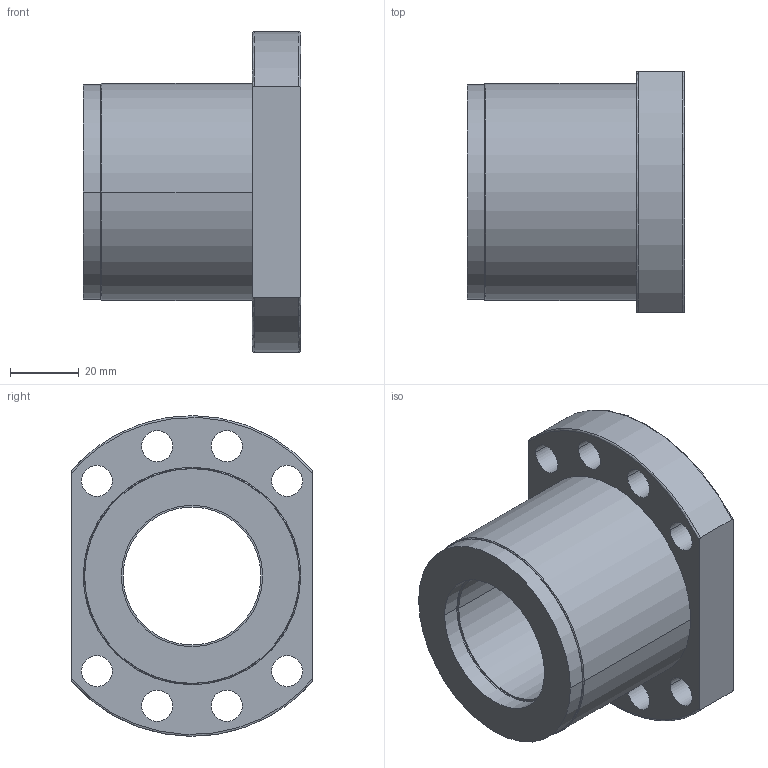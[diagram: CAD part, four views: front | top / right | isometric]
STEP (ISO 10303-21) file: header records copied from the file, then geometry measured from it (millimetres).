
FILE_DESCRIPTION (( 'STEP AP214' ), '1' );
FILE_NAME ('2.3007 Kuularuuvimutteri SFS4010-3,8.STEP', '2024-05-03T11:26:45', ( '' ), ( '' ), 'SwSTEP 2.0', 'SolidWorks 2024', '' );
FILE_SCHEMA (( 'AUTOMOTIVE_DESIGN' ));
Length unit declared in the file: millimetre
Products named in the file (1): 2.3007 Kuularuuvimutteri SFS4010-3,8
Bounding box: 63 x 70 x 93 mm (x, y, z)
Volume: 147886.2 mm3; surface area: 41760.7 mm2
Topology: 3 solids, 3 shells, 54 faces, 130 edges, 86 vertices
Faces by surface type: cylinder 36, plane 12, torus 6
Entity records: 2546 total; most frequent: CARTESIAN_POINT 1076, DIRECTION 304, ORIENTED_EDGE 260, AXIS2_PLACEMENT_3D 131, EDGE_CURVE 130, VERTEX_POINT 86, EDGE_LOOP 80, CIRCLE 76
